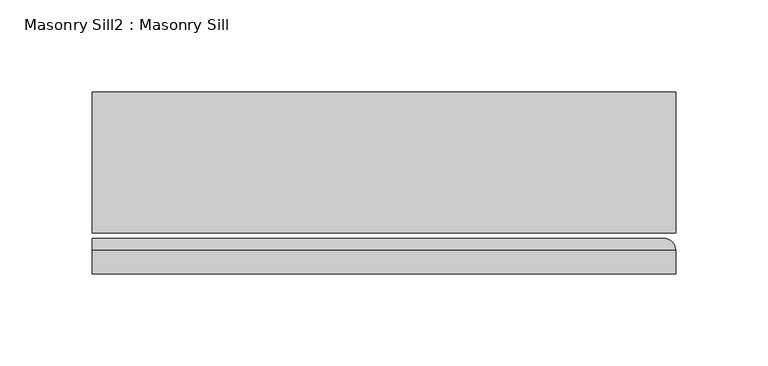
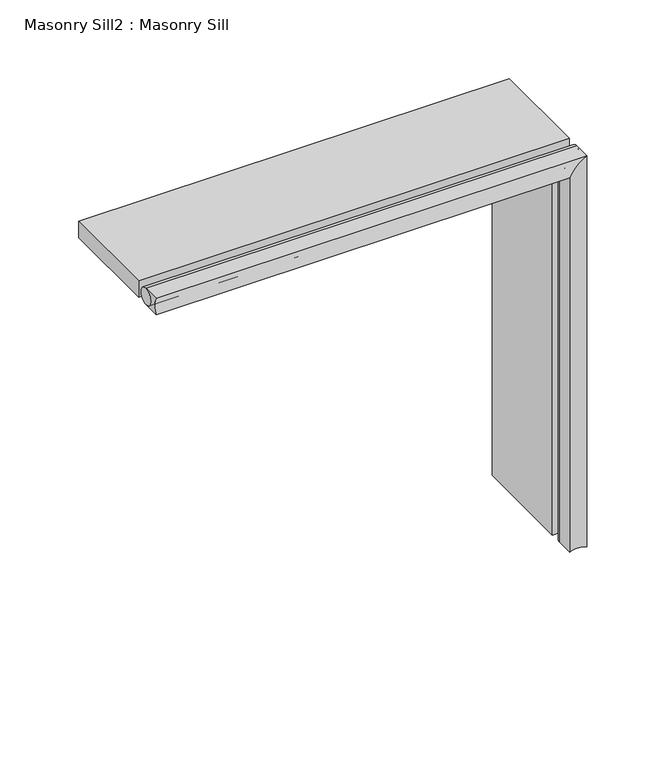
"""IFC4 building model written with IfcOpenShell, lengths in millimetres: proxy geometry, Masonry Sill2 : Masonry Sill."""

from ifc_helpers import new_model, si_unit, frame, origin, origin_with_axes, place, context, project, spatial, polyline, circle_curve, ellipse_curve, outline, extrude, source, transform, mapped, element, save
from ifc_brep_helpers import plane_surface, cylinder_surface, revolved_surface, advanced_brep


def masonry_sill2_masonry_sill_ae5a4ad6(model_context):
    return source(origin(), model_context, "Body", "SolidModel", [
        advanced_brep(
        [(26539.9726773, 630.8066297, 303.2125), (26539.9726773, 643.5066297, 303.2125), (26539.9726773, 643.5066297, 290.5125), (26539.9726773, 630.8066297, 290.5125), (26855.8851773, 630.8066297, 0.0), (26843.1851773, 630.8066297, 0.0), (26843.1851773, 643.5066297, 0.0), (26855.8851773, 643.5066297, 0.0), (26855.8851773, 630.8066297, 303.2125), (26855.8851773, 643.5066297, 303.2125), (26843.1851773, 643.5066297, 290.5125), (26843.1851773, 630.8066297, 290.5125)],
        [
            (0, 1),
            (1, 2, circle_curve(frame((26539.9726773, 643.5066297, 296.8625), z_axis=(1.0, 0.0, 0.0), x_axis=(0.0, 0.0, -1.0)), 6.35)),
            (2, 3),
            (3, 0, circle_curve(frame((26539.9726773, 619.808107, 296.8625), z_axis=(1.0, 0.0, 0.0), x_axis=(0.0, 0.0, -1.0)), 12.7)),
            (4, 5, circle_curve(frame((26849.5351773, 619.808107, 0.0), z_axis=(0.0, 0.0, 1.0), x_axis=(-1.0, 0.0, 0.0)), 12.7)),
            (5, 6),
            (6, 7, circle_curve(frame((26849.5351773, 643.5066297, 0.0), z_axis=(0.0, 0.0, 1.0), x_axis=(-1.0, 0.0, 0.0)), 6.35)),
            (7, 4),
            (0, 8),
            (8, 9),
            (9, 1),
            (9, 10, ellipse_curve(frame((26849.5351773, 643.5066297, 296.8625), z_axis=(0.7071067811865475, 0.0, -0.7071067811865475), x_axis=(0.7071067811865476, 0.0, 0.7071067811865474)), 8.9802561, 6.35)),
            (10, 2),
            (10, 11),
            (11, 3),
            (11, 8, ellipse_curve(frame((26849.5351773, 619.808107, 296.8625), z_axis=(0.7071067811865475, 0.0, -0.7071067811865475), x_axis=(0.7071067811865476, 0.0, 0.7071067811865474)), 17.9605122, 12.7)),
            (8, 4),
            (7, 9),
            (6, 10),
            (5, 11),
        ],
        [
            plane_surface(frame((26539.9726773, 653.0316297, 290.5125), z_axis=(-1.0, 0.0, 0.0), x_axis=(0.0, -1.0, 0.0))),
            plane_surface(frame((26843.1851773, 653.0316297, 0.0), z_axis=(0.0, 0.0, -1.0), x_axis=(0.0, -1.0, 0.0))),
            plane_surface(frame((26539.9726773, 630.8066297, 303.2125), z_axis=(0.0, 0.0, 1.0), x_axis=(1.0, 0.0, 0.0))),
            revolved_surface(polyline([(26855.8851773, 643.5066297, 290.5125), (26539.9726773, 643.5066297, 290.5125)]), (26539.9726773, 643.5066297, 296.8625), (1.0, 0.0, 0.0)),
            plane_surface(frame((26539.9726773, 643.5066297, 290.5125), z_axis=(0.0, 0.0, -1.0), x_axis=(1.0, 0.0, 0.0))),
            revolved_surface(polyline([(26862.235177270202, 619.808107, 284.1625), (26539.9726773, 619.808107, 284.1625)]), (26539.9726773, 619.808107, 296.8625), (1.0, 0.0, 0.0)),
            plane_surface(frame((26855.8851773, 630.8066297, 303.2125), z_axis=(1.0, 0.0, 0.0), x_axis=(0.0, 0.0, -1.0))),
            revolved_surface(polyline([(26843.1851773, 643.5066297, 0.0), (26843.1851773, 643.5066297, 303.2125)]), (26849.5351773, 643.5066297, 290.5125), (0.0, 0.0, -1.0)),
            plane_surface(frame((26843.1851773, 643.5066297, 290.5125), z_axis=(-1.0, 0.0, 0.0), x_axis=(0.0, 0.0, -1.0))),
            revolved_surface(polyline([(26836.8351773, 619.808107, 0.0), (26836.8351773, 619.808107, 309.5624999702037)]), (26849.5351773, 619.808107, 290.5125), (0.0, 0.0, -1.0)),
        ],
        [
            (0, [[1, 2, 3, 4]]),
            (1, [[5, 6, 7, 8]]),
            (2, [[-1, 9, 10, 11]]),
            (3, [[-2, -11, 12, 13]]),
            (4, [[-3, -13, 14, 15]]),
            (5, [[-4, -15, 16, -9]]),
            (6, [[-10, 17, -8, 18]]),
            (7, [[-12, -18, -7, 19]]),
            (8, [[-14, -19, -6, 20]]),
            (9, [[-16, -20, -5, -17]]),
        ],
    ),
        advanced_brep(
        [(26539.9726773, 643.5066297, 303.2125), (26539.9726773, 643.5066297, 290.5125), (26855.8851773, 643.5066297, 303.2125), (26843.1851773, 643.5066297, 290.5125), (26855.8851773, 643.5066297, 0.0), (26843.1851773, 643.5066297, 0.0)],
        [
            (0, 1, circle_curve(frame((26539.9726773, 643.5066297, 296.8625), z_axis=(-1.0, 0.0, 0.0), x_axis=(0.0, 0.0, -1.0)), 6.35)),
            (1, 0, circle_curve(frame((26539.9726773, 643.5066297, 296.8625), z_axis=(-1.0, 0.0, 0.0), x_axis=(0.0, 0.0, -1.0)), 6.35)),
            (0, 2),
            (2, 3, ellipse_curve(frame((26849.5351773, 643.5066297, 296.8625), z_axis=(-0.7071067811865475, 0.0, 0.7071067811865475), x_axis=(-0.7071067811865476, 0.0, -0.7071067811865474)), 8.9802561, 6.35)),
            (3, 1),
            (3, 2, ellipse_curve(frame((26849.5351773, 643.5066297, 296.8625), z_axis=(-0.7071067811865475, 0.0, 0.7071067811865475), x_axis=(-0.7071067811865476, 0.0, -0.7071067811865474)), 8.9802561, 6.35)),
            (4, 5, circle_curve(frame((26849.5351773, 643.5066297, 0.0), z_axis=(0.0, 0.0, -1.0), x_axis=(-1.0, 0.0, 0.0)), 6.35)),
            (5, 4, circle_curve(frame((26849.5351773, 643.5066297, 0.0), z_axis=(0.0, 0.0, -1.0), x_axis=(-1.0, 0.0, 0.0)), 6.35)),
            (2, 4),
            (5, 3),
        ],
        [
            plane_surface(frame((26539.9726773, 653.0316297, 290.5125), z_axis=(-1.0, 0.0, 0.0), x_axis=(0.0, -1.0, 0.0))),
            cylinder_surface(frame((26539.9726773, 643.5066297, 296.8625), z_axis=(-1.0, 0.0, 0.0), x_axis=(0.0, 0.0, -1.0)), 6.35),
            plane_surface(frame((26843.1851773, 653.0316297, 0.0), z_axis=(0.0, 0.0, -1.0), x_axis=(0.0, -1.0, 0.0))),
            cylinder_surface(frame((26849.5351773, 643.5066297, 290.5125), z_axis=(0.0, 0.0, 1.0), x_axis=(-1.0, 0.0, 0.0)), 6.35),
        ],
        [
            (0, [[1, 2]]),
            (1, [[-1, 3, 4, 5]]),
            (1, [[-2, -5, 6, -3]]),
            (2, [[7, 8]]),
            (3, [[-4, 9, -8, 10]]),
            (3, [[-6, -10, -7, -9]]),
        ],
    ),
        extrude(outline(polyline([(26855.8851773, 653.0316297), (26843.1851773, 653.0316297), (26843.1851773, 729.2316297), (26855.8851773, 729.2316297), (26855.8851773, 653.0316297)])), origin_with_axes(), (0.0, 0.0, 1.0), 290.5125),
        extrude(outline(polyline([(26539.9726773, 653.0316297), (26539.9726773, 729.2316297), (26855.8851773, 729.2316297), (26855.8851773, 653.0316297), (26539.9726773, 653.0316297)])), frame((0.0, 0.0, 290.5125), z_axis=(0.0, 0.0, 1.0), x_axis=(1.0, 0.0, 0.0)), (0.0, 0.0, 1.0), 12.7),
    ])


if __name__ == "__main__":
    model = new_model("IFC4")
    model_context = context("Model", 3, world=origin())
    ifc_project = project(units=[si_unit("LENGTHUNIT", "METRE", prefix="MILLI")], contexts=[model_context])
    site = spatial("IfcSite", under=ifc_project)
    building = spatial("IfcBuilding", under=site)
    placement = place(None, origin())
    masonry_sill2_masonry_sill_shape = masonry_sill2_masonry_sill_ae5a4ad6(model_context)
    element("IfcBuildingElementProxy", 1, Name="Masonry Sill2 : Masonry Sill", ObjectType="Masonry Sill2 : Masonry Sill", at=placement, inside=building, context=model_context, shape_type="MappedRepresentation", body=[
        mapped(masonry_sill2_masonry_sill_shape, transform((0.0, 0.0, 0.0), x_axis=(1.0, 0.0, 0.0), y_axis=(0.0, 1.0, 0.0), z_axis=(0.0, 0.0, 1.0))),
    ])
    save(model, "model.ifc")
